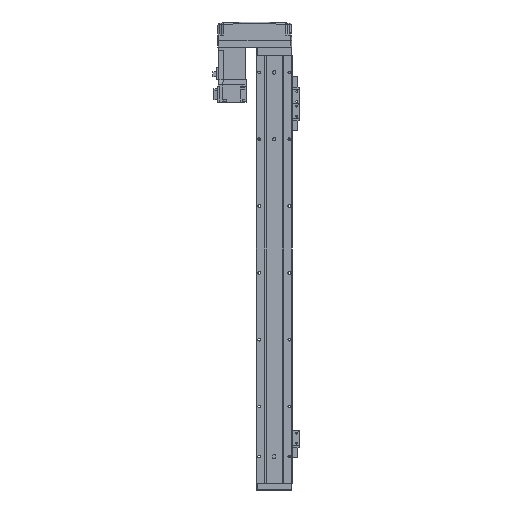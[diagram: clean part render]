
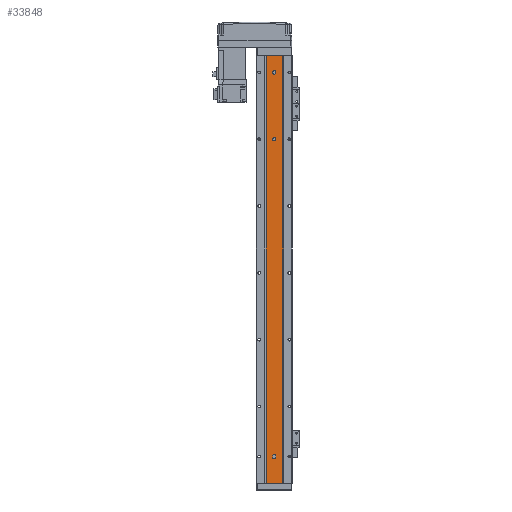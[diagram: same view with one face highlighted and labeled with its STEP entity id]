
A CAD part, front view. The second image highlights one B-rep face of the part: STEP entity #33848.
In plain terms, the highlighted planar face has unit normal (0, -1, 0).
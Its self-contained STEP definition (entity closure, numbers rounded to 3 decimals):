
#176 = AXIS2_PLACEMENT_3D ( 'NONE', #34895, #8187, #19991 ) ;
#261 = VERTEX_POINT ( 'NONE', #25696 ) ;
#652 = DIRECTION ( 'NONE',  ( 0., 0., 1. ) ) ;
#689 = ORIENTED_EDGE ( 'NONE', *, *, #21567, .F. ) ;
#1198 = VERTEX_POINT ( 'NONE', #25963 ) ;
#2898 = AXIS2_PLACEMENT_3D ( 'NONE', #21040, #20798, #29905 ) ;
#3522 = DIRECTION ( 'NONE',  ( 0., -1., 0. ) ) ;
#3540 = EDGE_LOOP ( 'NONE', ( #15935, #35716 ) ) ;
#3801 = CARTESIAN_POINT ( 'NONE',  ( -12.293, 1.5, -640. ) ) ;
#4520 = DIRECTION ( 'NONE',  ( 1., 0., 0. ) ) ;
#4770 = AXIS2_PLACEMENT_3D ( 'NONE', #15612, #21370, #15735 ) ;
#4833 = DIRECTION ( 'NONE',  ( 0., -1., 0. ) ) ;
#4992 = EDGE_LOOP ( 'NONE', ( #31233, #5603, #18849, #25768 ) ) ;
#5471 = DIRECTION ( 'NONE',  ( 0., 0., 1. ) ) ;
#5542 = VECTOR ( 'NONE', #24386, 1000. ) ;
#5583 = EDGE_LOOP ( 'NONE', ( #7858, #32954 ) ) ;
#5603 = ORIENTED_EDGE ( 'NONE', *, *, #16077, .F. ) ;
#5721 = CARTESIAN_POINT ( 'NONE',  ( 0., 1.5, -599. ) ) ;
#5817 = CARTESIAN_POINT ( 'NONE',  ( 2.5, 1.5, -25. ) ) ;
#6795 = DIRECTION ( 'NONE',  ( 0., 0., -1. ) ) ;
#6826 = CIRCLE ( 'NONE', #19542, 2.5 ) ;
#6986 = LINE ( 'NONE', #3801, #19142 ) ;
#7304 = EDGE_CURVE ( 'NONE', #29288, #38204, #26421, .T. ) ;
#7435 = LINE ( 'NONE', #8332, #5542 ) ;
#7690 = CARTESIAN_POINT ( 'NONE',  ( 12.293, 1.5, 0. ) ) ;
#7858 = ORIENTED_EDGE ( 'NONE', *, *, #34506, .F. ) ;
#8187 = DIRECTION ( 'NONE',  ( 0., -1., 0. ) ) ;
#8332 = CARTESIAN_POINT ( 'NONE',  ( 2.5, 1.5, -640. ) ) ;
#8712 = DIRECTION ( 'NONE',  ( 1., 0., 0. ) ) ;
#9412 = CIRCLE ( 'NONE', #2898, 2.5 ) ;
#10169 = AXIS2_PLACEMENT_3D ( 'NONE', #31568, #4833, #31816 ) ;
#10590 = VERTEX_POINT ( 'NONE', #29740 ) ;
#10802 = DIRECTION ( 'NONE',  ( 1., 0., 0. ) ) ;
#11398 = VERTEX_POINT ( 'NONE', #36276 ) ;
#12051 = VERTEX_POINT ( 'NONE', #15810 ) ;
#12529 = CARTESIAN_POINT ( 'NONE',  ( -2.5, 1.5, -640. ) ) ;
#12733 = EDGE_CURVE ( 'NONE', #1198, #261, #25691, .T. ) ;
#13073 = EDGE_CURVE ( 'NONE', #12051, #29288, #7435, .T. ) ;
#13153 = DIRECTION ( 'NONE',  ( 1., 0., 0. ) ) ;
#13951 = LINE ( 'NONE', #20427, #26553 ) ;
#14009 = LINE ( 'NONE', #7690, #21035 ) ;
#14435 = CIRCLE ( 'NONE', #4770, 2.5 ) ;
#14912 = ORIENTED_EDGE ( 'NONE', *, *, #12733, .T. ) ;
#15421 = CARTESIAN_POINT ( 'NONE',  ( -2.5, 1.5, -125. ) ) ;
#15609 = CARTESIAN_POINT ( 'NONE',  ( 0., 1.5, -125. ) ) ;
#15612 = CARTESIAN_POINT ( 'NONE',  ( 0., 1.5, -601. ) ) ;
#15735 = DIRECTION ( 'NONE',  ( 1., 0., 0. ) ) ;
#15810 = CARTESIAN_POINT ( 'NONE',  ( 2.5, 1.5, -601. ) ) ;
#15935 = ORIENTED_EDGE ( 'NONE', *, *, #36020, .F. ) ;
#16077 = EDGE_CURVE ( 'NONE', #38204, #17827, #35801, .T. ) ;
#16171 = DIRECTION ( 'NONE',  ( 0., -1., 0. ) ) ;
#17354 = EDGE_LOOP ( 'NONE', ( #23186, #689, #14912, #30528 ) ) ;
#17680 = CARTESIAN_POINT ( 'NONE',  ( -2.5, 1.5, -601. ) ) ;
#17827 = VERTEX_POINT ( 'NONE', #17680 ) ;
#18673 = VERTEX_POINT ( 'NONE', #30974 ) ;
#18849 = ORIENTED_EDGE ( 'NONE', *, *, #7304, .F. ) ;
#19022 = CARTESIAN_POINT ( 'NONE',  ( 2.5, 1.5, -599. ) ) ;
#19142 = VECTOR ( 'NONE', #652, 1000. ) ;
#19542 = AXIS2_PLACEMENT_3D ( 'NONE', #15609, #3522, #33278 ) ;
#19607 = CARTESIAN_POINT ( 'NONE',  ( 12.293, 1.5, -640. ) ) ;
#19895 = VECTOR ( 'NONE', #6795, 1000. ) ;
#19991 = DIRECTION ( 'NONE',  ( 1., 0., 0. ) ) ;
#20427 = CARTESIAN_POINT ( 'NONE',  ( 12.293, 1.5, -640. ) ) ;
#20629 = FACE_BOUND ( 'NONE', #5583, .T. ) ;
#20798 = DIRECTION ( 'NONE',  ( 0., -1., 0. ) ) ;
#21035 = VECTOR ( 'NONE', #10802, 1000. ) ;
#21040 = CARTESIAN_POINT ( 'NONE',  ( 0., 1.5, -25. ) ) ;
#21355 = VERTEX_POINT ( 'NONE', #5817 ) ;
#21370 = DIRECTION ( 'NONE',  ( 0., -1., 0. ) ) ;
#21567 = EDGE_CURVE ( 'NONE', #1198, #11398, #6986, .T. ) ;
#23186 = ORIENTED_EDGE ( 'NONE', *, *, #27098, .F. ) ;
#23416 = FACE_BOUND ( 'NONE', #3540, .T. ) ;
#24198 = CARTESIAN_POINT ( 'NONE',  ( -2.5, 1.5, -599. ) ) ;
#24386 = DIRECTION ( 'NONE',  ( 0., 0., 1. ) ) ;
#24510 = VERTEX_POINT ( 'NONE', #15421 ) ;
#24691 = EDGE_CURVE ( 'NONE', #24510, #18673, #36287, .T. ) ;
#25691 = LINE ( 'NONE', #19607, #35072 ) ;
#25696 = CARTESIAN_POINT ( 'NONE',  ( 12.293, 1.5, -640. ) ) ;
#25768 = ORIENTED_EDGE ( 'NONE', *, *, #13073, .F. ) ;
#25963 = CARTESIAN_POINT ( 'NONE',  ( -12.293, 1.5, -640. ) ) ;
#26421 = CIRCLE ( 'NONE', #33991, 2.5 ) ;
#26553 = VECTOR ( 'NONE', #5471, 1000. ) ;
#26615 = DIRECTION ( 'NONE',  ( 0., -1., 0. ) ) ;
#27098 = EDGE_CURVE ( 'NONE', #11398, #10590, #14009, .T. ) ;
#28052 = CARTESIAN_POINT ( 'NONE',  ( 12.293, 1.5, -640. ) ) ;
#28373 = EDGE_CURVE ( 'NONE', #261, #10590, #13951, .T. ) ;
#29288 = VERTEX_POINT ( 'NONE', #19022 ) ;
#29740 = CARTESIAN_POINT ( 'NONE',  ( 12.293, 1.5, 0. ) ) ;
#29846 = CIRCLE ( 'NONE', #10169, 2.5 ) ;
#29905 = DIRECTION ( 'NONE',  ( 1., 0., 0. ) ) ;
#30035 = EDGE_CURVE ( 'NONE', #38161, #21355, #9412, .T. ) ;
#30528 = ORIENTED_EDGE ( 'NONE', *, *, #28373, .T. ) ;
#30974 = CARTESIAN_POINT ( 'NONE',  ( 2.5, 1.5, -125. ) ) ;
#31233 = ORIENTED_EDGE ( 'NONE', *, *, #31321, .F. ) ;
#31321 = EDGE_CURVE ( 'NONE', #17827, #12051, #14435, .T. ) ;
#31390 = FACE_BOUND ( 'NONE', #4992, .T. ) ;
#31568 = CARTESIAN_POINT ( 'NONE',  ( 0., 1.5, -25. ) ) ;
#31816 = DIRECTION ( 'NONE',  ( 1., 0., 0. ) ) ;
#32954 = ORIENTED_EDGE ( 'NONE', *, *, #30035, .F. ) ;
#33263 = FACE_OUTER_BOUND ( 'NONE', #17354, .T. ) ;
#33278 = DIRECTION ( 'NONE',  ( 1., 0., 0. ) ) ;
#33820 = PLANE ( 'NONE',  #35246 ) ;
#33848 = ADVANCED_FACE ( 'NONE', ( #31390, #23416, #20629, #33263 ), #33820, .T. ) ;
#33991 = AXIS2_PLACEMENT_3D ( 'NONE', #5721, #26615, #8712 ) ;
#34506 = EDGE_CURVE ( 'NONE', #21355, #38161, #29846, .T. ) ;
#34895 = CARTESIAN_POINT ( 'NONE',  ( 0., 1.5, -125. ) ) ;
#35072 = VECTOR ( 'NONE', #4520, 1000. ) ;
#35246 = AXIS2_PLACEMENT_3D ( 'NONE', #28052, #16171, #13153 ) ;
#35716 = ORIENTED_EDGE ( 'NONE', *, *, #24691, .F. ) ;
#35801 = LINE ( 'NONE', #12529, #19895 ) ;
#35886 = CARTESIAN_POINT ( 'NONE',  ( -2.5, 1.5, -25. ) ) ;
#36020 = EDGE_CURVE ( 'NONE', #18673, #24510, #6826, .T. ) ;
#36276 = CARTESIAN_POINT ( 'NONE',  ( -12.293, 1.5, 0. ) ) ;
#36287 = CIRCLE ( 'NONE', #176, 2.5 ) ;
#38161 = VERTEX_POINT ( 'NONE', #35886 ) ;
#38204 = VERTEX_POINT ( 'NONE', #24198 ) ;
